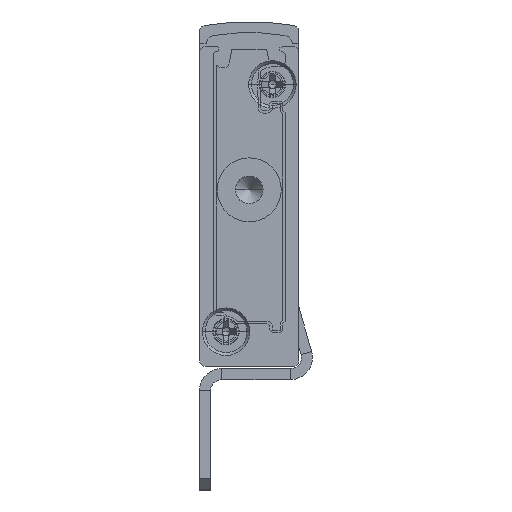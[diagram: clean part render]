
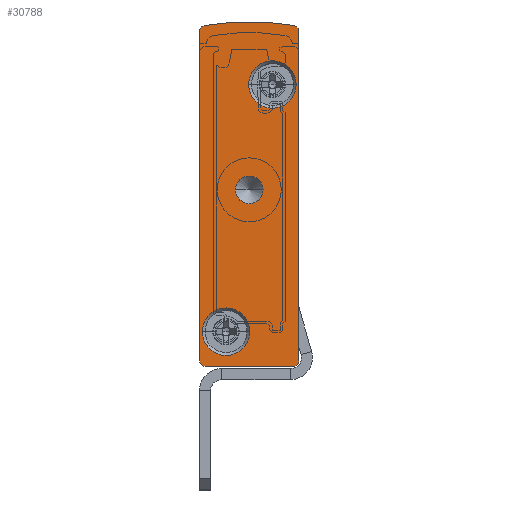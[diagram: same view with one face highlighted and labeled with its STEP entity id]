
A CAD part, front view. The second image highlights one B-rep face of the part: STEP entity #30788.
In plain terms, the highlighted planar face has unit normal (0, -1, 0).
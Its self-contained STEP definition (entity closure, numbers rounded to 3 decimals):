
#56 = DIRECTION ( 'NONE',  ( 0., 0., 1. ) ) ;
#263 = DIRECTION ( 'NONE',  ( -1., 0., 0. ) ) ;
#409 = AXIS2_PLACEMENT_3D ( 'NONE', #8989, #23432, #31952 ) ;
#826 = VECTOR ( 'NONE', #36684, 1000. ) ;
#1044 = CIRCLE ( 'NONE', #11202, 0.5 ) ;
#1137 = ORIENTED_EDGE ( 'NONE', *, *, #4550, .F. ) ;
#1221 = DIRECTION ( 'NONE',  ( -1., 0., 0. ) ) ;
#1257 = CARTESIAN_POINT ( 'NONE',  ( -0.25, -2.5, 25.55 ) ) ;
#1356 = DIRECTION ( 'NONE',  ( 0., 1., 0. ) ) ;
#1562 = CARTESIAN_POINT ( 'NONE',  ( -3.25, -2.5, 16. ) ) ;
#1848 = CIRCLE ( 'NONE', #6438, 0.5 ) ;
#3017 = DIRECTION ( 'NONE',  ( 0., 1., 0. ) ) ;
#3168 = DIRECTION ( 'NONE',  ( -1., 0., 0. ) ) ;
#3474 = EDGE_LOOP ( 'NONE', ( #33230, #13282 ) ) ;
#3523 = LINE ( 'NONE', #37077, #826 ) ;
#3681 = CARTESIAN_POINT ( 'NONE',  ( -8.5, -2.5, 30.402 ) ) ;
#4550 = EDGE_CURVE ( 'NONE', #5376, #29914, #13992, .T. ) ;
#4645 = AXIS2_PLACEMENT_3D ( 'NONE', #3681, #24012, #24152 ) ;
#4853 = CARTESIAN_POINT ( 'NONE',  ( -4.55, -2.5, 25.55 ) ) ;
#4972 = VERTEX_POINT ( 'NONE', #17506 ) ;
#5376 = VERTEX_POINT ( 'NONE', #18546 ) ;
#5412 = EDGE_CURVE ( 'NONE', #36215, #16402, #3523, .T. ) ;
#5502 = CARTESIAN_POINT ( 'NONE',  ( -2.4, -2.5, 25.55 ) ) ;
#5834 = VERTEX_POINT ( 'NONE', #7426 ) ;
#6077 = CIRCLE ( 'NONE', #409, 1.25 ) ;
#6164 = ORIENTED_EDGE ( 'NONE', *, *, #23194, .F. ) ;
#6318 = CARTESIAN_POINT ( 'NONE',  ( -8.5, -2.5, 0.5 ) ) ;
#6332 = ORIENTED_EDGE ( 'NONE', *, *, #36503, .F. ) ;
#6438 = AXIS2_PLACEMENT_3D ( 'NONE', #18526, #1356, #1221 ) ;
#6831 = CIRCLE ( 'NONE', #30794, 0.5 ) ;
#6883 = EDGE_LOOP ( 'NONE', ( #9941, #36245 ) ) ;
#7167 = CIRCLE ( 'NONE', #30959, 2.15 ) ;
#7426 = CARTESIAN_POINT ( 'NONE',  ( -8.75, -2.5, 3.15 ) ) ;
#7447 = DIRECTION ( 'NONE',  ( -1., 0., 0. ) ) ;
#8379 = AXIS2_PLACEMENT_3D ( 'NONE', #25329, #19534, #33595 ) ;
#8989 = CARTESIAN_POINT ( 'NONE',  ( -4.5, -2.5, 16. ) ) ;
#9053 = DIRECTION ( 'NONE',  ( 0., 1., 0. ) ) ;
#9320 = DIRECTION ( 'NONE',  ( 0., 1., 0. ) ) ;
#9847 = ORIENTED_EDGE ( 'NONE', *, *, #30263, .F. ) ;
#9941 = ORIENTED_EDGE ( 'NONE', *, *, #32537, .F. ) ;
#10145 = CARTESIAN_POINT ( 'NONE',  ( -0.5, -2.5, 0.5 ) ) ;
#10528 = DIRECTION ( 'NONE',  ( 0., 1., 0. ) ) ;
#11202 = AXIS2_PLACEMENT_3D ( 'NONE', #26589, #32273, #3168 ) ;
#11667 = ORIENTED_EDGE ( 'NONE', *, *, #5412, .F. ) ;
#12594 = CARTESIAN_POINT ( 'NONE',  ( -0.408, -2.5, 30.893 ) ) ;
#12832 = CARTESIAN_POINT ( 'NONE',  ( -8.5, -2.5, 0. ) ) ;
#13132 = VERTEX_POINT ( 'NONE', #19887 ) ;
#13282 = ORIENTED_EDGE ( 'NONE', *, *, #31438, .F. ) ;
#13992 = CIRCLE ( 'NONE', #29994, 23.658 ) ;
#14102 = ORIENTED_EDGE ( 'NONE', *, *, #22359, .T. ) ;
#14340 = DIRECTION ( 'NONE',  ( 0., -1., 0. ) ) ;
#14585 = CARTESIAN_POINT ( 'NONE',  ( -6.6, -2.5, 3.15 ) ) ;
#15440 = AXIS2_PLACEMENT_3D ( 'NONE', #14585, #14340, #34907 ) ;
#15453 = DIRECTION ( 'NONE',  ( -1., 0., 0. ) ) ;
#15821 = ORIENTED_EDGE ( 'NONE', *, *, #25619, .F. ) ;
#16228 = CIRCLE ( 'NONE', #15440, 2.15 ) ;
#16327 = CARTESIAN_POINT ( 'NONE',  ( 0., -2.5, 30.402 ) ) ;
#16402 = VERTEX_POINT ( 'NONE', #36839 ) ;
#16609 = AXIS2_PLACEMENT_3D ( 'NONE', #10145, #10528, #7447 ) ;
#17141 = CIRCLE ( 'NONE', #8379, 2.15 ) ;
#17235 = VERTEX_POINT ( 'NONE', #27656 ) ;
#17506 = CARTESIAN_POINT ( 'NONE',  ( -5.75, -2.5, 16. ) ) ;
#18526 = CARTESIAN_POINT ( 'NONE',  ( -8.5, -2.5, 30.402 ) ) ;
#18546 = CARTESIAN_POINT ( 'NONE',  ( -8.592, -2.5, 30.893 ) ) ;
#18941 = VERTEX_POINT ( 'NONE', #4853 ) ;
#19534 = DIRECTION ( 'NONE',  ( 0., -1., 0. ) ) ;
#19820 = DIRECTION ( 'NONE',  ( 1., 0., 0. ) ) ;
#19887 = CARTESIAN_POINT ( 'NONE',  ( -4.45, -2.5, 3.15 ) ) ;
#20739 = CARTESIAN_POINT ( 'NONE',  ( -9., -2.5, 0.5 ) ) ;
#20795 = DIRECTION ( 'NONE',  ( 0., -1., 0. ) ) ;
#20834 = CARTESIAN_POINT ( 'NONE',  ( -9., -2.5, 30.402 ) ) ;
#21699 = VERTEX_POINT ( 'NONE', #1257 ) ;
#22359 = EDGE_CURVE ( 'NONE', #29031, #4972, #24617, .T. ) ;
#22933 = ORIENTED_EDGE ( 'NONE', *, *, #23352, .F. ) ;
#23110 = FACE_BOUND ( 'NONE', #36671, .T. ) ;
#23194 = EDGE_CURVE ( 'NONE', #16402, #17235, #32582, .T. ) ;
#23345 = DIRECTION ( 'NONE',  ( -1., 0., 0. ) ) ;
#23352 = EDGE_CURVE ( 'NONE', #33607, #34897, #36669, .T. ) ;
#23432 = DIRECTION ( 'NONE',  ( 0., 1., 0. ) ) ;
#23559 = FACE_OUTER_BOUND ( 'NONE', #34749, .T. ) ;
#23857 = EDGE_CURVE ( 'NONE', #5834, #13132, #33070, .T. ) ;
#24012 = DIRECTION ( 'NONE',  ( 0., 1., 0. ) ) ;
#24152 = DIRECTION ( 'NONE',  ( -1., 0., 0. ) ) ;
#24190 = EDGE_CURVE ( 'NONE', #21699, #18941, #7167, .T. ) ;
#24617 = CIRCLE ( 'NONE', #34790, 1.25 ) ;
#25329 = CARTESIAN_POINT ( 'NONE',  ( -2.4, -2.5, 25.55 ) ) ;
#25609 = DIRECTION ( 'NONE',  ( 0., -1., 0. ) ) ;
#25619 = EDGE_CURVE ( 'NONE', #29457, #33607, #6831, .T. ) ;
#25950 = EDGE_CURVE ( 'NONE', #34897, #5376, #1848, .T. ) ;
#26386 = DIRECTION ( 'NONE',  ( 1., 0., 0. ) ) ;
#26417 = VECTOR ( 'NONE', #15453, 1000. ) ;
#26589 = CARTESIAN_POINT ( 'NONE',  ( -0.5, -2.5, 30.402 ) ) ;
#27656 = CARTESIAN_POINT ( 'NONE',  ( -0.5, -2.5, 0. ) ) ;
#28893 = VECTOR ( 'NONE', #56, 1000. ) ;
#29031 = VERTEX_POINT ( 'NONE', #1562 ) ;
#29457 = VERTEX_POINT ( 'NONE', #31079 ) ;
#29740 = DIRECTION ( 'NONE',  ( -1., 0., 0. ) ) ;
#29914 = VERTEX_POINT ( 'NONE', #12594 ) ;
#29994 = AXIS2_PLACEMENT_3D ( 'NONE', #32116, #3017, #23345 ) ;
#30263 = EDGE_CURVE ( 'NONE', #17235, #29457, #34142, .T. ) ;
#30466 = AXIS2_PLACEMENT_3D ( 'NONE', #35647, #20795, #26386 ) ;
#30788 = ADVANCED_FACE ( 'NONE', ( #30835, #33106, #23559, #23110 ), #35368, .F. ) ;
#30794 = AXIS2_PLACEMENT_3D ( 'NONE', #6318, #9053, #263 ) ;
#30835 = FACE_BOUND ( 'NONE', #3474, .T. ) ;
#30959 = AXIS2_PLACEMENT_3D ( 'NONE', #5502, #25609, #19820 ) ;
#31079 = CARTESIAN_POINT ( 'NONE',  ( -8.5, -2.5, 0. ) ) ;
#31295 = CARTESIAN_POINT ( 'NONE',  ( -9., -2.5, 30.402 ) ) ;
#31438 = EDGE_CURVE ( 'NONE', #18941, #21699, #17141, .T. ) ;
#31952 = DIRECTION ( 'NONE',  ( -1., 0., 0. ) ) ;
#32116 = CARTESIAN_POINT ( 'NONE',  ( -4.5, -2.5, 7.592 ) ) ;
#32273 = DIRECTION ( 'NONE',  ( 0., 1., 0. ) ) ;
#32537 = EDGE_CURVE ( 'NONE', #13132, #5834, #16228, .T. ) ;
#32582 = CIRCLE ( 'NONE', #16609, 0.5 ) ;
#32643 = CARTESIAN_POINT ( 'NONE',  ( -4.5, -2.5, 16. ) ) ;
#33070 = CIRCLE ( 'NONE', #30466, 2.15 ) ;
#33089 = ORIENTED_EDGE ( 'NONE', *, *, #25950, .F. ) ;
#33106 = FACE_BOUND ( 'NONE', #6883, .T. ) ;
#33230 = ORIENTED_EDGE ( 'NONE', *, *, #24190, .F. ) ;
#33595 = DIRECTION ( 'NONE',  ( 1., 0., 0. ) ) ;
#33607 = VERTEX_POINT ( 'NONE', #20739 ) ;
#33939 = ORIENTED_EDGE ( 'NONE', *, *, #35916, .T. ) ;
#34142 = LINE ( 'NONE', #12832, #26417 ) ;
#34749 = EDGE_LOOP ( 'NONE', ( #33089, #22933, #15821, #9847, #6164, #11667, #6332, #1137 ) ) ;
#34790 = AXIS2_PLACEMENT_3D ( 'NONE', #32643, #9320, #29740 ) ;
#34897 = VERTEX_POINT ( 'NONE', #20834 ) ;
#34907 = DIRECTION ( 'NONE',  ( 1., 0., 0. ) ) ;
#35368 = PLANE ( 'NONE',  #4645 ) ;
#35647 = CARTESIAN_POINT ( 'NONE',  ( -6.6, -2.5, 3.15 ) ) ;
#35916 = EDGE_CURVE ( 'NONE', #4972, #29031, #6077, .T. ) ;
#36215 = VERTEX_POINT ( 'NONE', #16327 ) ;
#36245 = ORIENTED_EDGE ( 'NONE', *, *, #23857, .F. ) ;
#36503 = EDGE_CURVE ( 'NONE', #29914, #36215, #1044, .T. ) ;
#36669 = LINE ( 'NONE', #31295, #28893 ) ;
#36671 = EDGE_LOOP ( 'NONE', ( #33939, #14102 ) ) ;
#36684 = DIRECTION ( 'NONE',  ( 0., 0., -1. ) ) ;
#36839 = CARTESIAN_POINT ( 'NONE',  ( 0., -2.5, 0.5 ) ) ;
#37077 = CARTESIAN_POINT ( 'NONE',  ( 0., -2.5, 30.402 ) ) ;
